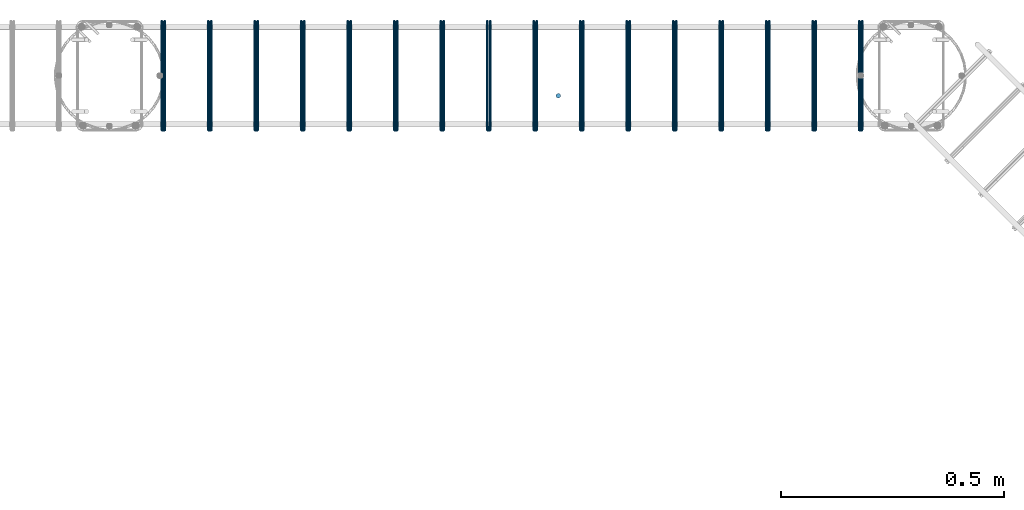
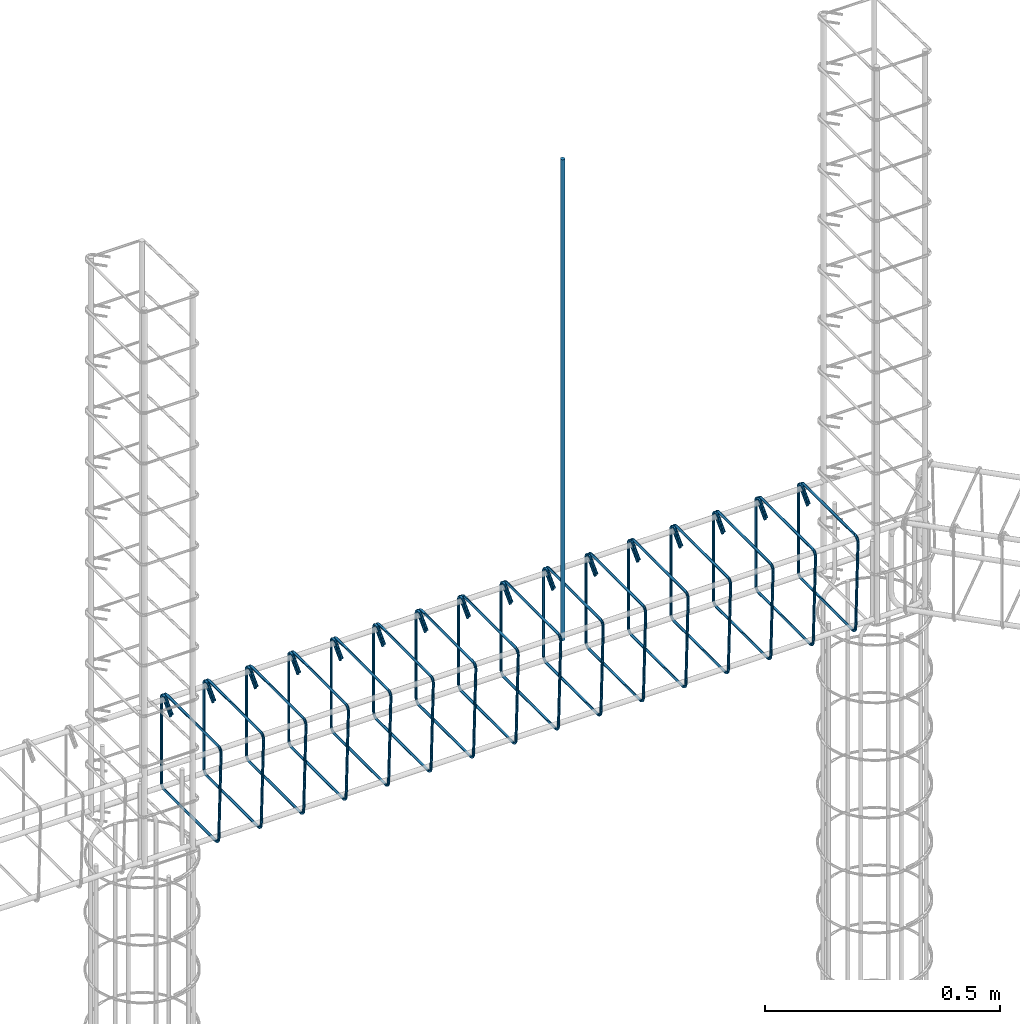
# One storey, part 11 of 14: 2 reinforcing bars.
"""IFC4 building model written with IfcOpenShell, lengths in centimetres."""

from ifc_helpers import new_model, entity, si_unit, converted_unit, derived_unit, direction, frame, origin, place, context, subcontext, project, spatial, type_object, element, save


model = new_model("IFC4")

# Units and contexts
model_context = context("Model", 3, precision=0.001, world=origin(), true_north=direction((6.123233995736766e-17, 1.0)))
body_context = subcontext(model_context, "Body", "Model", "MODEL_VIEW")
ifc_project = project(units=[si_unit("LENGTHUNIT", "METRE", prefix="CENTI"), si_unit("AREAUNIT", "SQUARE_METRE"), converted_unit("PLANEANGLEUNIT", "DEGREE", entity("IfcPlaneAngleMeasure", 0.017453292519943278), si_unit("PLANEANGLEUNIT", "RADIAN"), dimensions=[0, 0, 0, 0, 0, 0, 0]), si_unit("VOLUMEUNIT", "CUBIC_METRE"), derived_unit("THERMALTRANSMITTANCEUNIT", [(si_unit("MASSUNIT", "GRAM", prefix="KILO"), 1), (si_unit("THERMODYNAMICTEMPERATUREUNIT", "KELVIN"), -1), (si_unit("TIMEUNIT", "SECOND"), -3)])], contexts=[model_context])

# Site, building, storey
site_placement = place(None, origin())
site = spatial("IfcSite", under=ifc_project, at=site_placement, Name="Default", CompositionType="ELEMENT")
building_placement = place(site_placement, origin())
building = spatial("IfcBuilding", under=site, at=building_placement, Name="CONTENÇÃO DE ARQUIBANCADA - GINÁSIO PADRÃO", CompositionType="ELEMENT")
storey_placement = place(building_placement, frame((0.0, 0.0, -100.0)))
storey = spatial("IfcBuildingStorey", under=building, at=storey_placement, Name="Nível 3", CompositionType="ELEMENT", Elevation=-100.0)

# Reinforcing bars
reinforcing_bar_type_1 = type_object("IfcReinforcingBarType", Name="Barra do vergalhão:10 CA-50", PredefinedType="NOTDEFINED")
reinforcing_bar_1_placement = place(storey_placement, origin())
element("IfcReinforcingBar", 1, at=reinforcing_bar_1_placement, inside=storey, type_object=reinforcing_bar_type_1, Name="Barra do vergalhão:10 CA-50 : Forma 01", ObjectType="Barra do vergalhão:10 CA-50", context=body_context, shape_type="AdvancedSweptSolid", body=[
    entity("IfcSweptDiskSolid", entity("IfcIndexedPolyCurve", entity("IfcCartesianPointList3D", [[475.2053160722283, 244.57417522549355, 89.99999999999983], [475.2053160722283, 244.57417522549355, 214.99999999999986]]), None, False), 0.5, None, 0.0, 1.0),
])
reinforcing_bar_type_2 = type_object("IfcReinforcingBarType", Name="Barra do vergalhão:6.3 CA-50", PredefinedType="NOTDEFINED")
reinforcing_bar_2_placement = place(storey_placement, origin())
element("IfcReinforcingBar", 2, at=reinforcing_bar_2_placement, inside=storey, type_object=reinforcing_bar_type_2, Name="Barra do vergalhão:6.3 CA-50 : Forma 22", ObjectType="Barra do vergalhão:6.3 CA-50", context=body_context, shape_type="AdvancedSweptSolid", body=[
    entity("IfcSweptDiskSolid", entity("IfcIndexedPolyCurve", entity("IfcCartesianPointList3D", [[542.7613157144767, 256.55825578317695, 94.265989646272], [542.7613157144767, 259.10822068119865, 96.81595454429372], [542.7613157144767, 260.4813563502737, 97.0890882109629], [542.7613157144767, 261.2591752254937, 95.92499999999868], [542.7613157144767, 261.25917522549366, 74.07499999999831], [542.7613157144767, 260.8901297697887, 73.18404545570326], [542.7613157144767, 259.99917522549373, 72.81499999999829], [542.7613157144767, 238.1491752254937, 72.81499999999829], [542.7708528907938, 237.25822068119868, 73.18392220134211], [542.7938776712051, 236.8891752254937, 74.07457918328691], [543.3587537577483, 236.8891752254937, 95.92542081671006], [543.3817785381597, 237.25822068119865, 96.81607779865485], [543.3913157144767, 238.1491752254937, 97.18499999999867], [543.3913157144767, 259.9991752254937, 97.18499999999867], [543.3913157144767, 261.1632634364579, 96.4071811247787], [543.3913157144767, 260.89012976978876, 95.03404545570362], [543.3913157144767, 258.34016487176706, 92.48408055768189]]), [entity("IfcLineIndex", [1, 2]), entity("IfcArcIndex", [2, 3, 4]), entity("IfcLineIndex", [4, 5]), entity("IfcArcIndex", [5, 6, 7]), entity("IfcLineIndex", [7, 8]), entity("IfcArcIndex", [8, 9, 10]), entity("IfcLineIndex", [10, 11]), entity("IfcArcIndex", [11, 12, 13]), entity("IfcLineIndex", [13, 14]), entity("IfcArcIndex", [14, 15, 16]), entity("IfcLineIndex", [16, 17])], False), 0.31499999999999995, None, 0.0, 546.0000000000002),
    entity("IfcSweptDiskSolid", entity("IfcIndexedPolyCurve", entity("IfcCartesianPointList3D", [[532.3255251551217, 256.55825578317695, 94.265989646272], [532.3255251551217, 259.10822068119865, 96.81595454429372], [532.3255251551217, 260.4813563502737, 97.0890882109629], [532.3255251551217, 261.2591752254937, 95.92499999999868], [532.3255251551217, 261.25917522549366, 74.07499999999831], [532.3255251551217, 260.8901297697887, 73.18404545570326], [532.3255251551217, 259.99917522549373, 72.81499999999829], [532.3255251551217, 238.14917522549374, 72.81499999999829], [532.3350623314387, 237.2582206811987, 73.18392220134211], [532.3580871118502, 236.88917522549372, 74.07457918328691], [532.9229631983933, 236.88917522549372, 95.92542081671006], [532.9459879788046, 237.25822068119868, 96.81607779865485], [532.9555251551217, 238.14917522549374, 97.18499999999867], [532.9555251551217, 259.9991752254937, 97.18499999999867], [532.9555251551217, 261.1632634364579, 96.4071811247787], [532.9555251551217, 260.89012976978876, 95.03404545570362], [532.9555251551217, 258.34016487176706, 92.48408055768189]]), [entity("IfcLineIndex", [1, 2]), entity("IfcArcIndex", [2, 3, 4]), entity("IfcLineIndex", [4, 5]), entity("IfcArcIndex", [5, 6, 7]), entity("IfcLineIndex", [7, 8]), entity("IfcArcIndex", [8, 9, 10]), entity("IfcLineIndex", [10, 11]), entity("IfcArcIndex", [11, 12, 13]), entity("IfcLineIndex", [13, 14]), entity("IfcArcIndex", [14, 15, 16]), entity("IfcLineIndex", [16, 17])], False), 0.31499999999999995, None, 0.0, 546.0000000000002),
    entity("IfcSweptDiskSolid", entity("IfcIndexedPolyCurve", entity("IfcCartesianPointList3D", [[521.8897345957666, 256.558255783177, 94.265989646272], [521.8897345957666, 259.1082206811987, 96.81595454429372], [521.8897345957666, 260.48135635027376, 97.0890882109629], [521.8897345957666, 261.2591752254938, 95.92499999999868], [521.8897345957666, 261.2591752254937, 74.07499999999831], [521.8897345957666, 260.89012976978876, 73.18404545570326], [521.8897345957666, 259.9991752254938, 72.81499999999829], [521.8897345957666, 238.14917522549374, 72.81499999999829], [521.8992717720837, 237.2582206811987, 73.18392220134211], [521.9222965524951, 236.88917522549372, 74.07457918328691], [522.4871726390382, 236.88917522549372, 95.92542081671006], [522.5101974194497, 237.25822068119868, 96.81607779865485], [522.5197345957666, 238.14917522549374, 97.18499999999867], [522.5197345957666, 259.99917522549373, 97.18499999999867], [522.5197345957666, 261.16326343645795, 96.4071811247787], [522.5197345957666, 260.8901297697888, 95.03404545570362], [522.5197345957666, 258.3401648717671, 92.48408055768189]]), [entity("IfcLineIndex", [1, 2]), entity("IfcArcIndex", [2, 3, 4]), entity("IfcLineIndex", [4, 5]), entity("IfcArcIndex", [5, 6, 7]), entity("IfcLineIndex", [7, 8]), entity("IfcArcIndex", [8, 9, 10]), entity("IfcLineIndex", [10, 11]), entity("IfcArcIndex", [11, 12, 13]), entity("IfcLineIndex", [13, 14]), entity("IfcArcIndex", [14, 15, 16]), entity("IfcLineIndex", [16, 17])], False), 0.31499999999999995, None, 0.0, 546.0000000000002),
    entity("IfcSweptDiskSolid", entity("IfcIndexedPolyCurve", entity("IfcCartesianPointList3D", [[511.45394403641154, 256.558255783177, 94.265989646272], [511.45394403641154, 259.1082206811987, 96.81595454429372], [511.45394403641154, 260.48135635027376, 97.0890882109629], [511.45394403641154, 261.2591752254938, 95.92499999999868], [511.45394403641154, 261.2591752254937, 74.07499999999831], [511.45394403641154, 260.89012976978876, 73.18404545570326], [511.45394403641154, 259.9991752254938, 72.81499999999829], [511.45394403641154, 238.14917522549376, 72.81499999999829], [511.4634812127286, 237.25822068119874, 73.18392220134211], [511.48650599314, 236.88917522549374, 74.07457918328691], [512.0513820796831, 236.88917522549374, 95.92542081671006], [512.0744068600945, 237.2582206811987, 96.81607779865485], [512.0839440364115, 238.14917522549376, 97.18499999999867], [512.0839440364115, 259.99917522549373, 97.18499999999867], [512.0839440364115, 261.16326343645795, 96.4071811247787], [512.0839440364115, 260.8901297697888, 95.03404545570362], [512.0839440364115, 258.3401648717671, 92.48408055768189]]), [entity("IfcLineIndex", [1, 2]), entity("IfcArcIndex", [2, 3, 4]), entity("IfcLineIndex", [4, 5]), entity("IfcArcIndex", [5, 6, 7]), entity("IfcLineIndex", [7, 8]), entity("IfcArcIndex", [8, 9, 10]), entity("IfcLineIndex", [10, 11]), entity("IfcArcIndex", [11, 12, 13]), entity("IfcLineIndex", [13, 14]), entity("IfcArcIndex", [14, 15, 16]), entity("IfcLineIndex", [16, 17])], False), 0.31499999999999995, None, 0.0, 546.0000000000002),
    entity("IfcSweptDiskSolid", entity("IfcIndexedPolyCurve", entity("IfcCartesianPointList3D", [[501.0181534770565, 256.558255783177, 94.265989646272], [501.0181534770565, 259.1082206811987, 96.81595454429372], [501.0181534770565, 260.48135635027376, 97.0890882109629], [501.0181534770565, 261.2591752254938, 95.92499999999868], [501.0181534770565, 261.2591752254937, 74.07499999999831], [501.0181534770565, 260.89012976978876, 73.18404545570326], [501.0181534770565, 259.9991752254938, 72.81499999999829], [501.0181534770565, 238.1491752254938, 72.81499999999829], [501.02769065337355, 237.25822068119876, 73.18392220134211], [501.05071543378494, 236.88917522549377, 74.07457918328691], [501.6155915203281, 236.88917522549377, 95.92542081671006], [501.6386163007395, 237.25822068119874, 96.81607779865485], [501.64815347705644, 238.1491752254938, 97.18499999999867], [501.64815347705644, 259.99917522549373, 97.18499999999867], [501.64815347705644, 261.16326343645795, 96.4071811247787], [501.64815347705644, 260.8901297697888, 95.03404545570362], [501.64815347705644, 258.3401648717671, 92.48408055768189]]), [entity("IfcLineIndex", [1, 2]), entity("IfcArcIndex", [2, 3, 4]), entity("IfcLineIndex", [4, 5]), entity("IfcArcIndex", [5, 6, 7]), entity("IfcLineIndex", [7, 8]), entity("IfcArcIndex", [8, 9, 10]), entity("IfcLineIndex", [10, 11]), entity("IfcArcIndex", [11, 12, 13]), entity("IfcLineIndex", [13, 14]), entity("IfcArcIndex", [14, 15, 16]), entity("IfcLineIndex", [16, 17])], False), 0.31499999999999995, None, 0.0, 546.0000000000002),
    entity("IfcSweptDiskSolid", entity("IfcIndexedPolyCurve", entity("IfcCartesianPointList3D", [[490.58236291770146, 256.55825578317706, 94.265989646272], [490.58236291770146, 259.10822068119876, 96.81595454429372], [490.58236291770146, 260.4813563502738, 97.0890882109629], [490.58236291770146, 261.25917522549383, 95.92499999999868], [490.58236291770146, 261.2591752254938, 74.07499999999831], [490.58236291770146, 260.8901297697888, 73.18404545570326], [490.58236291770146, 259.99917522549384, 72.81499999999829], [490.58236291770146, 238.1491752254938, 72.81499999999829], [490.59190009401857, 237.25822068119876, 73.18392220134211], [490.61492487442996, 236.88917522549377, 74.07457918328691], [491.17980096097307, 236.88917522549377, 95.92542081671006], [491.20282574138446, 237.25822068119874, 96.81607779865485], [491.21236291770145, 238.1491752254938, 97.18499999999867], [491.21236291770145, 259.9991752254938, 97.18499999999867], [491.21236291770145, 261.163263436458, 96.4071811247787], [491.21236291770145, 260.89012976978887, 95.03404545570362], [491.21236291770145, 258.3401648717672, 92.48408055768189]]), [entity("IfcLineIndex", [1, 2]), entity("IfcArcIndex", [2, 3, 4]), entity("IfcLineIndex", [4, 5]), entity("IfcArcIndex", [5, 6, 7]), entity("IfcLineIndex", [7, 8]), entity("IfcArcIndex", [8, 9, 10]), entity("IfcLineIndex", [10, 11]), entity("IfcArcIndex", [11, 12, 13]), entity("IfcLineIndex", [13, 14]), entity("IfcArcIndex", [14, 15, 16]), entity("IfcLineIndex", [16, 17])], False), 0.31499999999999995, None, 0.0, 546.0000000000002),
    entity("IfcSweptDiskSolid", entity("IfcIndexedPolyCurve", entity("IfcCartesianPointList3D", [[480.1465723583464, 256.55825578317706, 94.265989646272], [480.1465723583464, 259.10822068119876, 96.81595454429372], [480.1465723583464, 260.4813563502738, 97.0890882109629], [480.1465723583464, 261.25917522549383, 95.92499999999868], [480.1465723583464, 261.2591752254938, 74.07499999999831], [480.1465723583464, 260.8901297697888, 73.18404545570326], [480.1465723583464, 259.99917522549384, 72.81499999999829], [480.1465723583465, 238.14917522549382, 72.81499999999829], [480.15610953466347, 237.2582206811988, 73.18392220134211], [480.1791343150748, 236.8891752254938, 74.07457918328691], [480.744010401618, 236.8891752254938, 95.92542081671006], [480.7670351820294, 237.25822068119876, 96.81607779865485], [480.77657235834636, 238.14917522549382, 97.18499999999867], [480.77657235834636, 259.9991752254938, 97.18499999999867], [480.77657235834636, 261.163263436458, 96.4071811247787], [480.77657235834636, 260.89012976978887, 95.03404545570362], [480.77657235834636, 258.3401648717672, 92.48408055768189]]), [entity("IfcLineIndex", [1, 2]), entity("IfcArcIndex", [2, 3, 4]), entity("IfcLineIndex", [4, 5]), entity("IfcArcIndex", [5, 6, 7]), entity("IfcLineIndex", [7, 8]), entity("IfcArcIndex", [8, 9, 10]), entity("IfcLineIndex", [10, 11]), entity("IfcArcIndex", [11, 12, 13]), entity("IfcLineIndex", [13, 14]), entity("IfcArcIndex", [14, 15, 16]), entity("IfcLineIndex", [16, 17])], False), 0.31499999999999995, None, 0.0, 546.0000000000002),
    entity("IfcSweptDiskSolid", entity("IfcIndexedPolyCurve", entity("IfcCartesianPointList3D", [[469.7107817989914, 256.55825578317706, 94.265989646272], [469.7107817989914, 259.10822068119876, 96.81595454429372], [469.7107817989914, 260.4813563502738, 97.0890882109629], [469.7107817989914, 261.25917522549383, 95.92499999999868], [469.7107817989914, 261.2591752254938, 74.07499999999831], [469.7107817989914, 260.8901297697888, 73.18404545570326], [469.7107817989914, 259.99917522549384, 72.81499999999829], [469.71078179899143, 238.14917522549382, 72.81499999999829], [469.72031897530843, 237.2582206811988, 73.18392220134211], [469.74334375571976, 236.8891752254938, 74.07457918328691], [470.308219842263, 236.8891752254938, 95.92542081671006], [470.3312446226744, 237.25822068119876, 96.81607779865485], [470.3407817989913, 238.14917522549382, 97.18499999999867], [470.3407817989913, 259.9991752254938, 97.18499999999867], [470.3407817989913, 261.163263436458, 96.4071811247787], [470.3407817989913, 260.89012976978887, 95.03404545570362], [470.3407817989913, 258.3401648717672, 92.48408055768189]]), [entity("IfcLineIndex", [1, 2]), entity("IfcArcIndex", [2, 3, 4]), entity("IfcLineIndex", [4, 5]), entity("IfcArcIndex", [5, 6, 7]), entity("IfcLineIndex", [7, 8]), entity("IfcArcIndex", [8, 9, 10]), entity("IfcLineIndex", [10, 11]), entity("IfcArcIndex", [11, 12, 13]), entity("IfcLineIndex", [13, 14]), entity("IfcArcIndex", [14, 15, 16]), entity("IfcLineIndex", [16, 17])], False), 0.31499999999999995, None, 0.0, 546.0000000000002),
    entity("IfcSweptDiskSolid", entity("IfcIndexedPolyCurve", entity("IfcCartesianPointList3D", [[459.2749912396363, 256.55825578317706, 94.265989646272], [459.2749912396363, 259.1082206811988, 96.81595454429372], [459.2749912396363, 260.48135635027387, 97.0890882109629], [459.2749912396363, 261.2591752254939, 95.92499999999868], [459.2749912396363, 261.25917522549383, 74.07499999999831], [459.2749912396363, 260.89012976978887, 73.18404545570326], [459.2749912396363, 259.9991752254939, 72.81499999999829], [459.27499123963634, 238.14917522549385, 72.81499999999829], [459.2845284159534, 237.25822068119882, 73.18392220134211], [459.3075531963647, 236.88917522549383, 74.07457918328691], [459.8724292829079, 236.88917522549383, 95.92542081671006], [459.8954540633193, 237.2582206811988, 96.81607779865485], [459.9049912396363, 238.14917522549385, 97.18499999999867], [459.9049912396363, 259.99917522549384, 97.18499999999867], [459.9049912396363, 261.16326343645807, 96.4071811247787], [459.9049912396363, 260.8901297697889, 95.03404545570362], [459.9049912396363, 258.34016487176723, 92.48408055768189]]), [entity("IfcLineIndex", [1, 2]), entity("IfcArcIndex", [2, 3, 4]), entity("IfcLineIndex", [4, 5]), entity("IfcArcIndex", [5, 6, 7]), entity("IfcLineIndex", [7, 8]), entity("IfcArcIndex", [8, 9, 10]), entity("IfcLineIndex", [10, 11]), entity("IfcArcIndex", [11, 12, 13]), entity("IfcLineIndex", [13, 14]), entity("IfcArcIndex", [14, 15, 16]), entity("IfcLineIndex", [16, 17])], False), 0.31499999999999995, None, 0.0, 546.0000000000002),
    entity("IfcSweptDiskSolid", entity("IfcIndexedPolyCurve", entity("IfcCartesianPointList3D", [[448.8392006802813, 256.55825578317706, 94.265989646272], [448.8392006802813, 259.1082206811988, 96.81595454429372], [448.8392006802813, 260.48135635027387, 97.0890882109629], [448.8392006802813, 261.2591752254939, 95.92499999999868], [448.8392006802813, 261.25917522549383, 74.07499999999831], [448.8392006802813, 260.89012976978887, 73.18404545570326], [448.8392006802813, 259.9991752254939, 72.81499999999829], [448.83920068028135, 238.14917522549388, 72.81499999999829], [448.84873785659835, 237.25822068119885, 73.18392220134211], [448.8717626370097, 236.88917522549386, 74.07457918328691], [449.4366387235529, 236.88917522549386, 95.92542081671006], [449.4596635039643, 237.25822068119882, 96.81607779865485], [449.46920068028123, 238.14917522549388, 97.18499999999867], [449.46920068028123, 259.99917522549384, 97.18499999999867], [449.46920068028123, 261.16326343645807, 96.4071811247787], [449.46920068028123, 260.8901297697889, 95.03404545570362], [449.46920068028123, 258.34016487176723, 92.48408055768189]]), [entity("IfcLineIndex", [1, 2]), entity("IfcArcIndex", [2, 3, 4]), entity("IfcLineIndex", [4, 5]), entity("IfcArcIndex", [5, 6, 7]), entity("IfcLineIndex", [7, 8]), entity("IfcArcIndex", [8, 9, 10]), entity("IfcLineIndex", [10, 11]), entity("IfcArcIndex", [11, 12, 13]), entity("IfcLineIndex", [13, 14]), entity("IfcArcIndex", [14, 15, 16]), entity("IfcLineIndex", [16, 17])], False), 0.31499999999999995, None, 0.0, 546.0000000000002),
    entity("IfcSweptDiskSolid", entity("IfcIndexedPolyCurve", entity("IfcCartesianPointList3D", [[438.40341012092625, 256.55825578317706, 94.265989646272], [438.40341012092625, 259.1082206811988, 96.81595454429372], [438.40341012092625, 260.48135635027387, 97.0890882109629], [438.40341012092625, 261.2591752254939, 95.92499999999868], [438.40341012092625, 261.25917522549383, 74.07499999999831], [438.40341012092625, 260.89012976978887, 73.18404545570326], [438.40341012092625, 259.9991752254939, 72.81499999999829], [438.4034101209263, 238.14917522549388, 72.81499999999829], [438.4129472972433, 237.25822068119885, 73.18392220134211], [438.43597207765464, 236.88917522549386, 74.07457918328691], [439.00084816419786, 236.88917522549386, 95.92542081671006], [439.02387294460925, 237.25822068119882, 96.81607779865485], [439.0334101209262, 238.14917522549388, 97.18499999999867], [439.0334101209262, 259.99917522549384, 97.18499999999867], [439.0334101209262, 261.16326343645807, 96.4071811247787], [439.0334101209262, 260.8901297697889, 95.03404545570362], [439.0334101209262, 258.34016487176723, 92.48408055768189]]), [entity("IfcLineIndex", [1, 2]), entity("IfcArcIndex", [2, 3, 4]), entity("IfcLineIndex", [4, 5]), entity("IfcArcIndex", [5, 6, 7]), entity("IfcLineIndex", [7, 8]), entity("IfcArcIndex", [8, 9, 10]), entity("IfcLineIndex", [10, 11]), entity("IfcArcIndex", [11, 12, 13]), entity("IfcLineIndex", [13, 14]), entity("IfcArcIndex", [14, 15, 16]), entity("IfcLineIndex", [16, 17])], False), 0.31499999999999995, None, 0.0, 546.0000000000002),
    entity("IfcSweptDiskSolid", entity("IfcIndexedPolyCurve", entity("IfcCartesianPointList3D", [[427.96761956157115, 256.55825578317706, 94.265989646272], [427.96761956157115, 259.1082206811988, 96.81595454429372], [427.96761956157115, 260.48135635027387, 97.0890882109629], [427.96761956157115, 261.2591752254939, 95.92499999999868], [427.96761956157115, 261.25917522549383, 74.07499999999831], [427.96761956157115, 260.89012976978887, 73.18404545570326], [427.96761956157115, 259.9991752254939, 72.81499999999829], [427.9676195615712, 238.1491752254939, 72.81499999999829], [427.97715673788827, 237.25822068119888, 73.18392220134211], [428.0001815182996, 236.8891752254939, 74.07457918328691], [428.56505760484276, 236.8891752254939, 95.92542081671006], [428.58808238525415, 237.25822068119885, 96.81607779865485], [428.59761956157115, 238.1491752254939, 97.18499999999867], [428.59761956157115, 259.99917522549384, 97.18499999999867], [428.59761956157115, 261.16326343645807, 96.4071811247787], [428.59761956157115, 260.8901297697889, 95.03404545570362], [428.59761956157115, 258.34016487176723, 92.48408055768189]]), [entity("IfcLineIndex", [1, 2]), entity("IfcArcIndex", [2, 3, 4]), entity("IfcLineIndex", [4, 5]), entity("IfcArcIndex", [5, 6, 7]), entity("IfcLineIndex", [7, 8]), entity("IfcArcIndex", [8, 9, 10]), entity("IfcLineIndex", [10, 11]), entity("IfcArcIndex", [11, 12, 13]), entity("IfcLineIndex", [13, 14]), entity("IfcArcIndex", [14, 15, 16]), entity("IfcLineIndex", [16, 17])], False), 0.31499999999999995, None, 0.0, 546.0000000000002),
    entity("IfcSweptDiskSolid", entity("IfcIndexedPolyCurve", entity("IfcCartesianPointList3D", [[417.5318290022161, 256.5582557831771, 94.265989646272], [417.5318290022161, 259.1082206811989, 96.81595454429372], [417.5318290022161, 260.4813563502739, 97.0890882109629], [417.5318290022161, 261.25917522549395, 95.92499999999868], [417.5318290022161, 261.2591752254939, 74.07499999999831], [417.5318290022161, 260.8901297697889, 73.18404545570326], [417.5318290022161, 259.99917522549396, 72.81499999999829], [417.53182900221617, 238.14917522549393, 72.81499999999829], [417.54136617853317, 237.2582206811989, 73.18392220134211], [417.5643909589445, 236.88917522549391, 74.07457918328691], [418.1292670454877, 236.88917522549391, 95.92542081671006], [418.1522918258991, 237.25822068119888, 96.81607779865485], [418.16182900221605, 238.14917522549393, 97.18499999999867], [418.16182900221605, 259.9991752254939, 97.18499999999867], [418.16182900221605, 261.1632634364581, 96.4071811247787], [418.16182900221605, 260.890129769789, 95.03404545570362], [418.16182900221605, 258.3401648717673, 92.48408055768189]]), [entity("IfcLineIndex", [1, 2]), entity("IfcArcIndex", [2, 3, 4]), entity("IfcLineIndex", [4, 5]), entity("IfcArcIndex", [5, 6, 7]), entity("IfcLineIndex", [7, 8]), entity("IfcArcIndex", [8, 9, 10]), entity("IfcLineIndex", [10, 11]), entity("IfcArcIndex", [11, 12, 13]), entity("IfcLineIndex", [13, 14]), entity("IfcArcIndex", [14, 15, 16]), entity("IfcLineIndex", [16, 17])], False), 0.31499999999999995, None, 0.0, 546.0000000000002),
    entity("IfcSweptDiskSolid", entity("IfcIndexedPolyCurve", entity("IfcCartesianPointList3D", [[407.0960384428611, 256.5582557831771, 94.265989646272], [407.0960384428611, 259.1082206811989, 96.81595454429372], [407.0960384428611, 260.4813563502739, 97.0890882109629], [407.0960384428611, 261.25917522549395, 95.92499999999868], [407.0960384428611, 261.2591752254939, 74.07499999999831], [407.0960384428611, 260.8901297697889, 73.18404545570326], [407.0960384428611, 259.99917522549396, 72.81499999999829], [407.09603844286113, 238.14917522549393, 72.81499999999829], [407.1055756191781, 237.2582206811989, 73.18392220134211], [407.12860039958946, 236.88917522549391, 74.07457918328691], [407.6934764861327, 236.88917522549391, 95.92542081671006], [407.71650126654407, 237.25822068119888, 96.81607779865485], [407.726038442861, 238.14917522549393, 97.18499999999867], [407.726038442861, 259.9991752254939, 97.18499999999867], [407.726038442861, 261.1632634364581, 96.4071811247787], [407.726038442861, 260.890129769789, 95.03404545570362], [407.726038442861, 258.3401648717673, 92.48408055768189]]), [entity("IfcLineIndex", [1, 2]), entity("IfcArcIndex", [2, 3, 4]), entity("IfcLineIndex", [4, 5]), entity("IfcArcIndex", [5, 6, 7]), entity("IfcLineIndex", [7, 8]), entity("IfcArcIndex", [8, 9, 10]), entity("IfcLineIndex", [10, 11]), entity("IfcArcIndex", [11, 12, 13]), entity("IfcLineIndex", [13, 14]), entity("IfcArcIndex", [14, 15, 16]), entity("IfcLineIndex", [16, 17])], False), 0.31499999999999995, None, 0.0, 546.0000000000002),
    entity("IfcSweptDiskSolid", entity("IfcIndexedPolyCurve", entity("IfcCartesianPointList3D", [[396.66024788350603, 256.5582557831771, 94.265989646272], [396.66024788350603, 259.1082206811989, 96.81595454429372], [396.66024788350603, 260.4813563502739, 97.0890882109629], [396.66024788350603, 261.25917522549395, 95.92499999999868], [396.66024788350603, 261.2591752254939, 74.07499999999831], [396.66024788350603, 260.8901297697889, 73.18404545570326], [396.66024788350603, 259.99917522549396, 72.81499999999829], [396.6602478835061, 238.14917522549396, 72.81499999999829], [396.66978505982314, 237.25822068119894, 73.18392220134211], [396.6928098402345, 236.88917522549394, 74.07457918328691], [397.25768592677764, 236.88917522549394, 95.92542081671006], [397.28071070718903, 237.2582206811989, 96.81607779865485], [397.290247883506, 238.14917522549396, 97.18499999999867], [397.290247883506, 259.9991752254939, 97.18499999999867], [397.290247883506, 261.1632634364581, 96.4071811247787], [397.290247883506, 260.890129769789, 95.03404545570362], [397.290247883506, 258.3401648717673, 92.48408055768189]]), [entity("IfcLineIndex", [1, 2]), entity("IfcArcIndex", [2, 3, 4]), entity("IfcLineIndex", [4, 5]), entity("IfcArcIndex", [5, 6, 7]), entity("IfcLineIndex", [7, 8]), entity("IfcArcIndex", [8, 9, 10]), entity("IfcLineIndex", [10, 11]), entity("IfcArcIndex", [11, 12, 13]), entity("IfcLineIndex", [13, 14]), entity("IfcArcIndex", [14, 15, 16]), entity("IfcLineIndex", [16, 17])], False), 0.31499999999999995, None, 0.0, 546.0000000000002),
    entity("IfcSweptDiskSolid", entity("IfcIndexedPolyCurve", entity("IfcCartesianPointList3D", [[386.224457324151, 256.5582557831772, 94.265989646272], [386.224457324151, 259.10822068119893, 96.81595454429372], [386.224457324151, 260.4813563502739, 97.0890882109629], [386.224457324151, 261.259175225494, 95.92499999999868], [386.224457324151, 261.25917522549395, 74.07499999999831], [386.224457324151, 260.890129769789, 73.18404545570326], [386.224457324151, 259.999175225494, 72.81499999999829], [386.22445732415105, 238.14917522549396, 72.81499999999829], [386.23399450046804, 237.25822068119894, 73.18392220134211], [386.2570192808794, 236.88917522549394, 74.07457918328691], [386.8218953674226, 236.88917522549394, 95.92542081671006], [386.844920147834, 237.2582206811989, 96.81607779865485], [386.8544573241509, 238.14917522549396, 97.18499999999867], [386.8544573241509, 259.99917522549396, 97.18499999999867], [386.8544573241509, 261.1632634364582, 96.4071811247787], [386.8544573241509, 260.89012976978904, 95.03404545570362], [386.8544573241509, 258.34016487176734, 92.48408055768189]]), [entity("IfcLineIndex", [1, 2]), entity("IfcArcIndex", [2, 3, 4]), entity("IfcLineIndex", [4, 5]), entity("IfcArcIndex", [5, 6, 7]), entity("IfcLineIndex", [7, 8]), entity("IfcArcIndex", [8, 9, 10]), entity("IfcLineIndex", [10, 11]), entity("IfcArcIndex", [11, 12, 13]), entity("IfcLineIndex", [13, 14]), entity("IfcArcIndex", [14, 15, 16]), entity("IfcLineIndex", [16, 17])], False), 0.31499999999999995, None, 0.0, 546.0000000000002),
])

save(model, "model.ifc")
